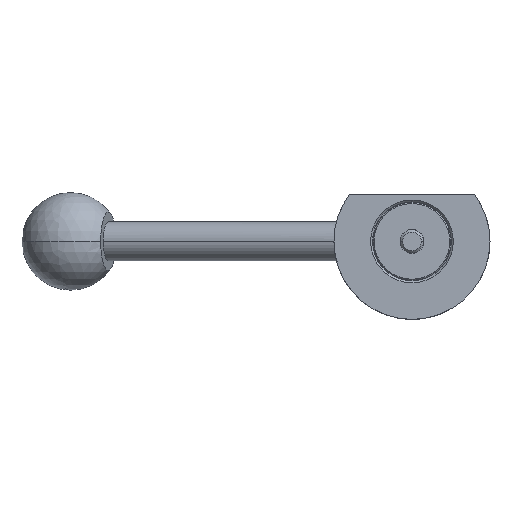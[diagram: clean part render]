
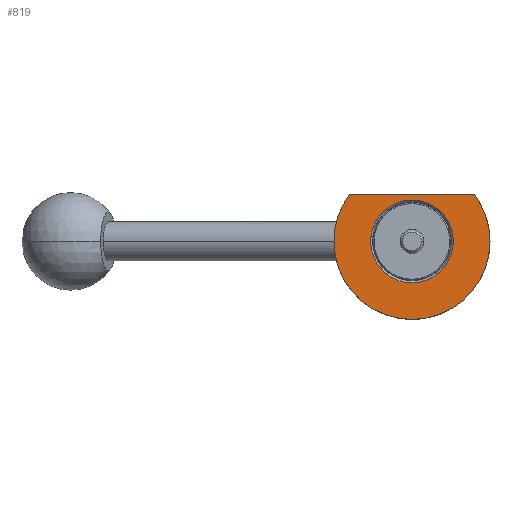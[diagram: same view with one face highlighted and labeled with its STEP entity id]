
A CAD part, front view. The second image highlights one B-rep face of the part: STEP entity #819.
In plain terms, the highlighted planar face has unit normal (0, -1, 0).
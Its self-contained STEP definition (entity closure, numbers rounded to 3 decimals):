
#1 = AXIS2_PLACEMENT_3D ( 'NONE', #1241, #1657, #303 ) ;
#5 = VECTOR ( 'NONE', #954, 1000. ) ;
#15 = EDGE_CURVE ( 'NONE', #525, #318, #1110, .T. ) ;
#26 = EDGE_CURVE ( 'NONE', #525, #1940, #602, .T. ) ;
#30 = AXIS2_PLACEMENT_3D ( 'NONE', #1325, #71, #1621 ) ;
#71 = DIRECTION ( 'NONE',  ( 0., 1., 0. ) ) ;
#168 = DIRECTION ( 'NONE',  ( -1., 0., 0. ) ) ;
#169 = CIRCLE ( 'NONE', #1, 10.6 ) ;
#248 = CARTESIAN_POINT ( 'NONE',  ( 10.6, -10., 0. ) ) ;
#285 = DIRECTION ( 'NONE',  ( -1., 0., 0. ) ) ;
#303 = DIRECTION ( 'NONE',  ( -1., 0., 0. ) ) ;
#312 = DIRECTION ( 'NONE',  ( -1., 0., 0. ) ) ;
#318 = VERTEX_POINT ( 'NONE', #1227 ) ;
#476 = EDGE_CURVE ( 'NONE', #318, #1954, #2001, .T. ) ;
#525 = VERTEX_POINT ( 'NONE', #1282 ) ;
#577 = CARTESIAN_POINT ( 'NONE',  ( -16.001, -10., 11.999 ) ) ;
#602 = LINE ( 'NONE', #1297, #5 ) ;
#623 = CARTESIAN_POINT ( 'NONE',  ( 0., -10., 0. ) ) ;
#630 = CARTESIAN_POINT ( 'NONE',  ( -10.6, -10., 0. ) ) ;
#640 = DIRECTION ( 'NONE',  ( 0., 1., 0. ) ) ;
#677 = VERTEX_POINT ( 'NONE', #248 ) ;
#729 = CIRCLE ( 'NONE', #1506, 10.6 ) ;
#756 = ORIENTED_EDGE ( 'NONE', *, *, #15, .F. ) ;
#796 = ORIENTED_EDGE ( 'NONE', *, *, #937, .F. ) ;
#818 = PLANE ( 'NONE',  #1008 ) ;
#819 = ADVANCED_FACE ( 'NONE', ( #1708, #1067 ), #818, .T. ) ;
#852 = AXIS2_PLACEMENT_3D ( 'NONE', #623, #1239, #285 ) ;
#865 = ORIENTED_EDGE ( 'NONE', *, *, #476, .F. ) ;
#937 = EDGE_CURVE ( 'NONE', #1954, #1940, #1350, .T. ) ;
#954 = DIRECTION ( 'NONE',  ( -1., 0., 0. ) ) ;
#1008 = AXIS2_PLACEMENT_3D ( 'NONE', #1851, #1398, #2016 ) ;
#1067 = FACE_OUTER_BOUND ( 'NONE', #1139, .T. ) ;
#1086 = EDGE_CURVE ( 'NONE', #1484, #677, #169, .T. ) ;
#1110 = CIRCLE ( 'NONE', #852, 20. ) ;
#1139 = EDGE_LOOP ( 'NONE', ( #756, #1808, #796, #865 ) ) ;
#1227 = CARTESIAN_POINT ( 'NONE',  ( 20., -10., 0. ) ) ;
#1239 = DIRECTION ( 'NONE',  ( 0., 1., 0. ) ) ;
#1241 = CARTESIAN_POINT ( 'NONE',  ( 0., -10., 0. ) ) ;
#1242 = ORIENTED_EDGE ( 'NONE', *, *, #1509, .T. ) ;
#1248 = CARTESIAN_POINT ( 'NONE',  ( 0., -10., 0. ) ) ;
#1250 = ORIENTED_EDGE ( 'NONE', *, *, #1086, .T. ) ;
#1282 = CARTESIAN_POINT ( 'NONE',  ( 16.001, -10., 11.999 ) ) ;
#1297 = CARTESIAN_POINT ( 'NONE',  ( -10.6, -10., 11.999 ) ) ;
#1325 = CARTESIAN_POINT ( 'NONE',  ( 0., -10., 0. ) ) ;
#1350 = CIRCLE ( 'NONE', #30, 20. ) ;
#1398 = DIRECTION ( 'NONE',  ( 0., -1., 0. ) ) ;
#1484 = VERTEX_POINT ( 'NONE', #630 ) ;
#1506 = AXIS2_PLACEMENT_3D ( 'NONE', #1248, #1698, #312 ) ;
#1509 = EDGE_CURVE ( 'NONE', #677, #1484, #729, .T. ) ;
#1621 = DIRECTION ( 'NONE',  ( -1., 0., 0. ) ) ;
#1657 = DIRECTION ( 'NONE',  ( 0., 1., 0. ) ) ;
#1698 = DIRECTION ( 'NONE',  ( 0., 1., 0. ) ) ;
#1708 = FACE_BOUND ( 'NONE', #1799, .T. ) ;
#1736 = CARTESIAN_POINT ( 'NONE',  ( 0., -10., 0. ) ) ;
#1799 = EDGE_LOOP ( 'NONE', ( #1242, #1250 ) ) ;
#1808 = ORIENTED_EDGE ( 'NONE', *, *, #26, .T. ) ;
#1851 = CARTESIAN_POINT ( 'NONE',  ( -10.6, -10., 0. ) ) ;
#1896 = AXIS2_PLACEMENT_3D ( 'NONE', #1736, #640, #168 ) ;
#1939 = CARTESIAN_POINT ( 'NONE',  ( -20., -10., 0. ) ) ;
#1940 = VERTEX_POINT ( 'NONE', #577 ) ;
#1954 = VERTEX_POINT ( 'NONE', #1939 ) ;
#2001 = CIRCLE ( 'NONE', #1896, 20. ) ;
#2016 = DIRECTION ( 'NONE',  ( 1., 0., 0. ) ) ;
